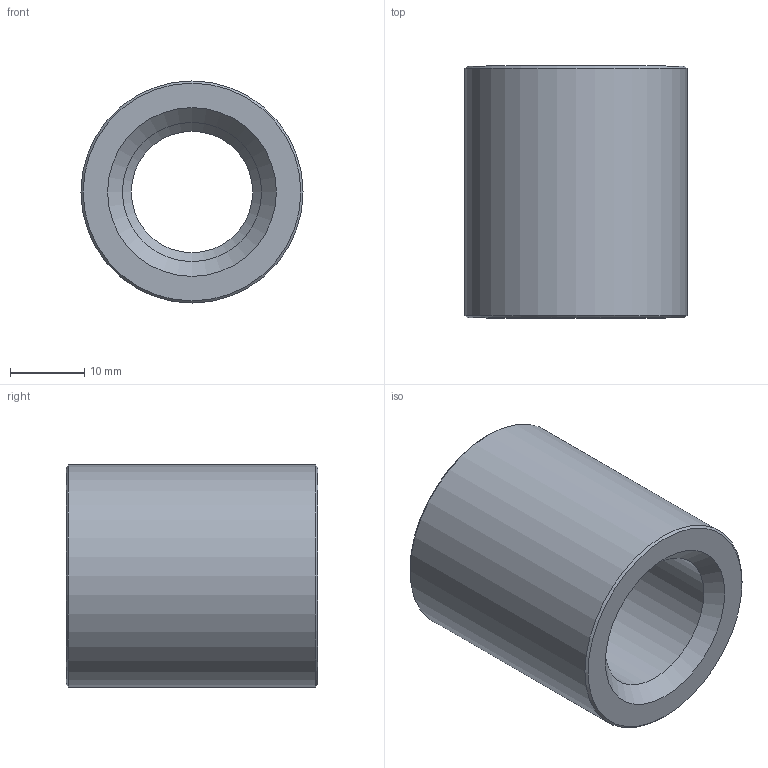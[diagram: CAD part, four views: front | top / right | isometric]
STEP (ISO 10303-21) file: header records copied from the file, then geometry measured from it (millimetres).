
FILE_DESCRIPTION(('STEP AP214'), '1');
FILE_NAME('EL10662SS6', '', ('UNSPECIFIED'), ('UNSPECIFIED'), 'ASCON STEP Converter 1.6', 'ASCON Math Kernel', '');
FILE_SCHEMA(('AUTOMOTIVE_DESIGN { 1 0 10303 214 3 1 1}'));
Length unit declared in the file: millimetre
Bounding box: 30 x 34 x 30 mm (x, y, z)
Volume: 14523.4 mm3; surface area: 6041.2 mm2
Topology: 1 solids, 1 shells, 9 faces, 17 edges, 10 vertices
Faces by surface type: cone 5, plane 2, cylinder 2
Full cylindrical faces by diameter (mm): 18.8 x1, 30 x1
Entity records: 310 total; most frequent: DIRECTION 40, CARTESIAN_POINT 30, AXIS2_PLACEMENT_3D 20, ORIENTED_EDGE 20, EDGE_LOOP 18, FACE_OUTER_BOUND 12, COLOUR_RGB 10, FILL_AREA_STYLE_COLOUR 10
